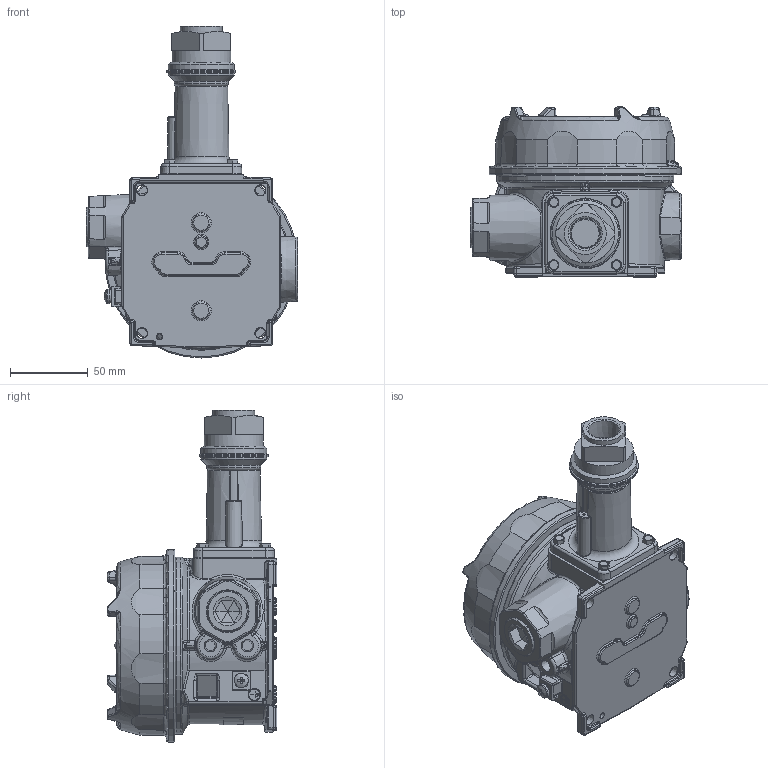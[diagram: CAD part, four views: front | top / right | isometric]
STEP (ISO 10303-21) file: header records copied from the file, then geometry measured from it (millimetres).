
FILE_DESCRIPTION (( 'STEP AP214' ), '1' );
FILE_NAME ('J120-171_174_V5.STEP', '2025-03-13T18:56:09', ( '' ), ( '' ), 'SwSTEP 2.0', 'SolidWorks 2023', '' );
FILE_SCHEMA (( 'AUTOMOTIVE_DESIGN' ));
Length unit declared in the file: inch
Products named in the file (1): J120-171_174_V5
Bounding box: 135.89 x 109.35 x 213.8 mm (x, y, z)
Surface area: 100377.4 mm2 (no closed solid volume)
Topology: 0 solids, 23 shells, 989 faces, 2545 edges, 1508 vertices
Faces by surface type: bspline 239, plane 227, cylinder 212, torus 155, cone 125, sphere 31
Full cylindrical faces by diameter (mm): 1.575 x1, 3.22 x1, 5.556 x4, 7.366 x1, 7.874 x1, 9.5 x1, 17.856 x1, 23.812 x1, 26.987 x1, 34.925 x1, 38.1 x1, 42.736 x1, 42.748 x1, 44.45 x3, 87.312 x1, 114.046 x1, 123.952 x1
Entity records: 40220 total; most frequent: CARTESIAN_POINT 19173, ORIENTED_EDGE 4411, DIRECTION 4071, EDGE_CURVE 2401, AXIS2_PLACEMENT_3D 1711, VERTEX_POINT 1481, EDGE_LOOP 1126, FACE_OUTER_BOUND 1035
